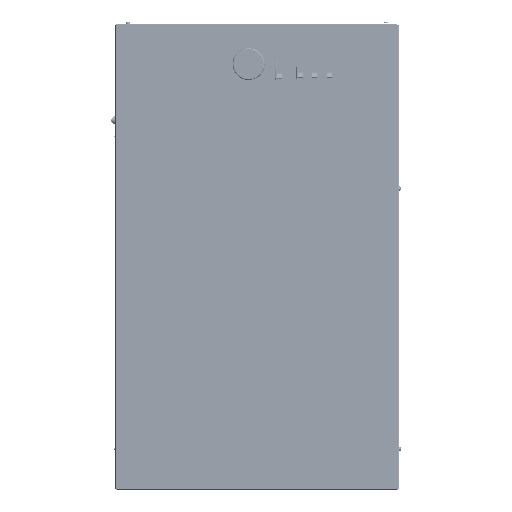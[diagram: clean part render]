
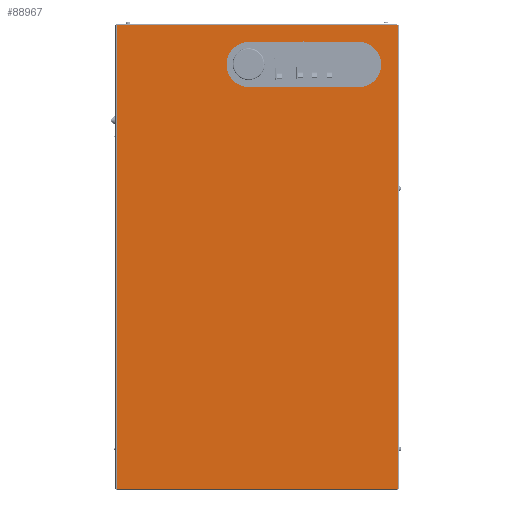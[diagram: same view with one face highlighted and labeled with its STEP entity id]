
A CAD part, top view. The second image highlights one B-rep face of the part: STEP entity #88967.
In plain terms, the highlighted planar face has unit normal (0, 0, 1).
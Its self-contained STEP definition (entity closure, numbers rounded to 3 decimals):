
#2282=FACE_BOUND('',#13594,.T.);
#4060=CIRCLE('',#93791,1.);
#4215=CIRCLE('',#94099,40.);
#4216=CIRCLE('',#94101,40.);
#9497=FACE_OUTER_BOUND('',#13593,.T.);
#13593=EDGE_LOOP('',(#64947,#64948,#64949,#64950,#64951,#64952,#64953,#64954));
#13594=EDGE_LOOP('',(#64955,#64956,#64957,#64958,#64959,#64960));
#17962=LINE('',#127774,#27072);
#17964=LINE('',#127782,#27074);
#18174=LINE('',#128418,#27284);
#18175=LINE('',#128422,#27285);
#18177=LINE('',#128426,#27287);
#18186=LINE('',#128454,#27296);
#18286=LINE('',#128754,#27396);
#18290=LINE('',#128765,#27400);
#18291=LINE('',#128766,#27401);
#18292=LINE('',#128768,#27402);
#18293=LINE('',#128771,#27403);
#27072=VECTOR('',#103187,10.);
#27074=VECTOR('',#103197,10.);
#27284=VECTOR('',#103831,10.);
#27285=VECTOR('',#103836,10.);
#27287=VECTOR('',#103842,10.);
#27296=VECTOR('',#103871,10.);
#27396=VECTOR('',#104133,10.);
#27400=VECTOR('',#104145,10.);
#27401=VECTOR('',#104146,10.);
#27402=VECTOR('',#104147,10.);
#27403=VECTOR('',#104150,10.);
#36513=VERTEX_POINT('',#127771);
#36514=VERTEX_POINT('',#127773);
#36515=VERTEX_POINT('',#127778);
#36516=VERTEX_POINT('',#127780);
#36517=VERTEX_POINT('',#127784);
#36518=VERTEX_POINT('',#127785);
#36730=VERTEX_POINT('',#128417);
#36731=VERTEX_POINT('',#128421);
#36737=VERTEX_POINT('',#128447);
#36740=VERTEX_POINT('',#128452);
#36859=VERTEX_POINT('',#128753);
#36862=VERTEX_POINT('',#128761);
#36863=VERTEX_POINT('',#128767);
#36864=VERTEX_POINT('',#128769);
#48432=EDGE_CURVE('',#36514,#36513,#17962,.T.);
#48437=EDGE_CURVE('',#36515,#36516,#17964,.T.);
#48438=EDGE_CURVE('',#36517,#36518,#4060,.T.);
#48755=EDGE_CURVE('',#36730,#36514,#18174,.T.);
#48757=EDGE_CURVE('',#36731,#36730,#18175,.T.);
#48760=EDGE_CURVE('',#36516,#36731,#18177,.T.);
#48773=EDGE_CURVE('',#36737,#36740,#18186,.T.);
#48913=EDGE_CURVE('',#36859,#36517,#18286,.T.);
#48917=EDGE_CURVE('',#36862,#36859,#4215,.T.);
#48919=EDGE_CURVE('',#36513,#36737,#18290,.T.);
#48920=EDGE_CURVE('',#36740,#36515,#18291,.T.);
#48921=EDGE_CURVE('',#36518,#36863,#18292,.T.);
#48922=EDGE_CURVE('',#36863,#36864,#4216,.T.);
#48923=EDGE_CURVE('',#36864,#36862,#18293,.T.);
#64947=ORIENTED_EDGE('',*,*,#48755,.T.);
#64948=ORIENTED_EDGE('',*,*,#48432,.T.);
#64949=ORIENTED_EDGE('',*,*,#48919,.T.);
#64950=ORIENTED_EDGE('',*,*,#48773,.T.);
#64951=ORIENTED_EDGE('',*,*,#48920,.T.);
#64952=ORIENTED_EDGE('',*,*,#48437,.T.);
#64953=ORIENTED_EDGE('',*,*,#48760,.T.);
#64954=ORIENTED_EDGE('',*,*,#48757,.T.);
#64955=ORIENTED_EDGE('',*,*,#48438,.T.);
#64956=ORIENTED_EDGE('',*,*,#48921,.T.);
#64957=ORIENTED_EDGE('',*,*,#48922,.T.);
#64958=ORIENTED_EDGE('',*,*,#48923,.T.);
#64959=ORIENTED_EDGE('',*,*,#48917,.T.);
#64960=ORIENTED_EDGE('',*,*,#48913,.T.);
#83430=PLANE('',#94100);
#88967=ADVANCED_FACE('',(#9497,#2282),#83430,.F.);
#93791=AXIS2_PLACEMENT_3D('',#127786,#103200,#103201);
#94099=AXIS2_PLACEMENT_3D('',#128762,#104140,#104141);
#94100=AXIS2_PLACEMENT_3D('',#128764,#104143,#104144);
#94101=AXIS2_PLACEMENT_3D('',#128770,#104148,#104149);
#103187=DIRECTION('',(-1.,0.,0.));
#103197=DIRECTION('',(1.,0.,0.));
#103200=DIRECTION('center_axis',(0.,0.,
-1.));
#103201=DIRECTION('ref_axis',(1.,0.,0.));
#103831=DIRECTION('',(-1.,0.,0.));
#103836=DIRECTION('',(0.,1.,0.));
#103842=DIRECTION('',(1.,0.,0.));
#103871=DIRECTION('',(0.,-1.,0.));
#104133=DIRECTION('',(1.,0.,0.));
#104140=DIRECTION('center_axis',(0.,0.,
-1.));
#104141=DIRECTION('ref_axis',(0.,-1.,0.));
#104143=DIRECTION('center_axis',(0.,0.,
-1.));
#104144=DIRECTION('ref_axis',(0.,1.,0.));
#104145=DIRECTION('',(-1.,0.,0.));
#104146=DIRECTION('',(1.,0.,0.));
#104147=DIRECTION('',(1.,0.,0.));
#104148=DIRECTION('center_axis',(0.,0.,
-1.));
#104149=DIRECTION('ref_axis',(0.,1.,0.));
#104150=DIRECTION('',(-1.,0.,0.));
#127771=CARTESIAN_POINT('',(971.236,2116.299,-175.22));
#127773=CARTESIAN_POINT('',(1464.136,2116.299,-175.22));
#127774=CARTESIAN_POINT('',(1341.436,2116.299,-175.22));
#127778=CARTESIAN_POINT('',(971.236,1300.299,-175.22));
#127780=CARTESIAN_POINT('',(1464.136,1300.299,-175.22));
#127782=CARTESIAN_POINT('',(1093.936,1300.299,-175.22));
#127784=CARTESIAN_POINT('',(1298.686,2086.299,-175.22));
#127785=CARTESIAN_POINT('',(1300.686,2086.299,-175.22));
#127786=CARTESIAN_POINT('Origin',(1299.686,2086.299,-175.22));
#128417=CARTESIAN_POINT('',(1465.186,2116.299,-175.22));
#128418=CARTESIAN_POINT('',(1341.436,2116.299,-175.22));
#128421=CARTESIAN_POINT('',(1465.186,1300.299,-175.22));
#128422=CARTESIAN_POINT('',(1465.186,1503.799,-175.22));
#128426=CARTESIAN_POINT('',(1093.936,1300.299,-175.22));
#128447=CARTESIAN_POINT('',(970.186,2116.299,-175.22));
#128452=CARTESIAN_POINT('',(970.186,1300.299,-175.22));
#128454=CARTESIAN_POINT('',(970.186,1912.799,-175.22));
#128753=CARTESIAN_POINT('',(1203.686,2086.299,-175.22));
#128754=CARTESIAN_POINT('',(1306.686,2086.299,-175.22));
#128761=CARTESIAN_POINT('',(1203.686,2006.299,-175.22));
#128762=CARTESIAN_POINT('Origin',(1203.686,2046.299,-175.22));
#128764=CARTESIAN_POINT('Origin',(1217.686,1708.299,-175.22));
#128765=CARTESIAN_POINT('',(1341.436,2116.299,-175.22));
#128766=CARTESIAN_POINT('',(1093.936,1300.299,-175.22));
#128767=CARTESIAN_POINT('',(1395.686,2086.299,-175.22));
#128768=CARTESIAN_POINT('',(1306.686,2086.299,-175.22));
#128769=CARTESIAN_POINT('',(1395.686,2006.299,-175.22));
#128770=CARTESIAN_POINT('Origin',(1395.686,2046.299,-175.22));
#128771=CARTESIAN_POINT('',(1210.686,2006.299,-175.22));
